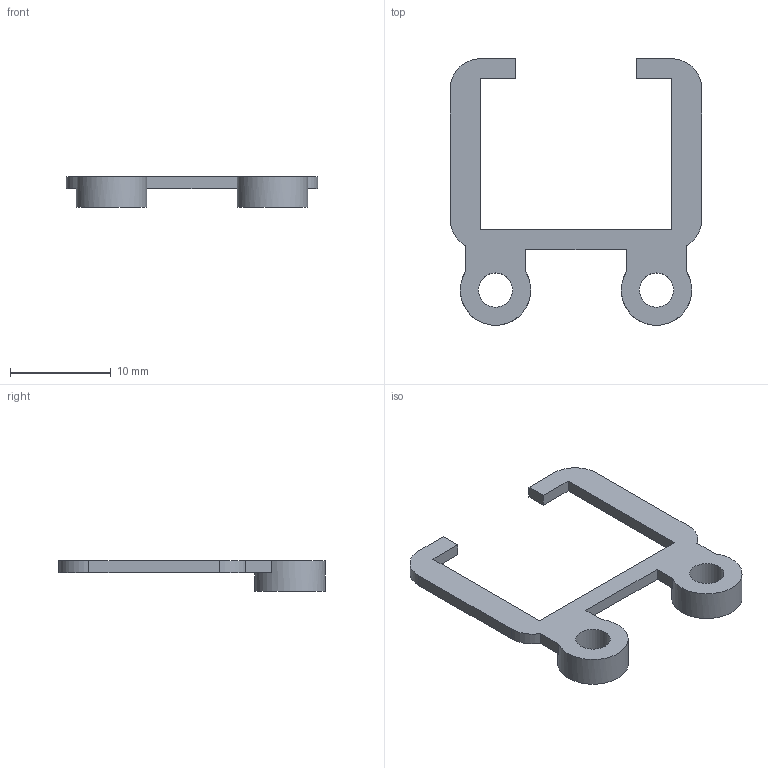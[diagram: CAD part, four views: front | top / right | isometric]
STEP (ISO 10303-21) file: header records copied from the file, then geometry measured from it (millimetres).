
FILE_DESCRIPTION(('Open CASCADE Model'),'2;1');
FILE_NAME('Open CASCADE Shape Model','2026-10-01T12:35:22',('Author'),( 'Open CASCADE'),'Open CASCADE STEP processor 7.8','Open CASCADE 7.8' ,'Unknown');
FILE_SCHEMA(('AUTOMOTIVE_DESIGN { 1 0 10303 214 1 1 1 1 }'));
Length unit declared in the file: millimetre
Products named in the file (2): P13_USB_capture_cap; P13_USB_capture_cap_solid
Assembly tree (1 placements, depth 2):
  P13_USB_capture_cap
    P13_USB_capture_cap_solid
Bounding box: 25 x 26.5 x 3 mm (x, y, z)
Volume: 381.2 mm3; surface area: 791.6 mm2
Topology: 1 solids, 1 shells, 28 faces, 78 edges, 52 vertices
Faces by surface type: plane 20, cylinder 8
Full cylindrical faces by diameter (mm): 3.4 x2, 7 x2
Entity records: 1979 total; most frequent: CARTESIAN_POINT 352, DIRECTION 308, LINE 194, VECTOR 194, ORIENTED_EDGE 156, PCURVE 156, DEFINITIONAL_REPRESENTATION 156, EDGE_CURVE 78
